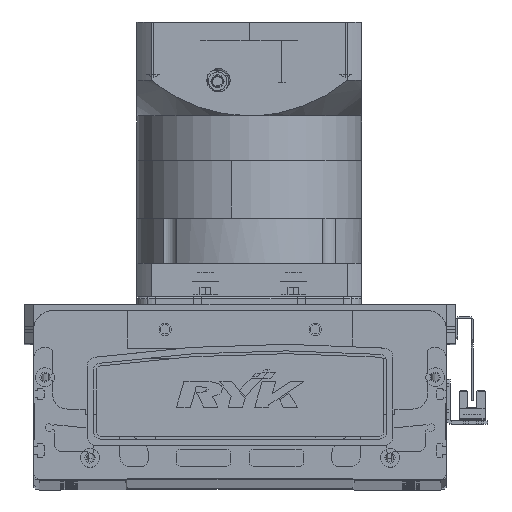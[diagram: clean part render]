
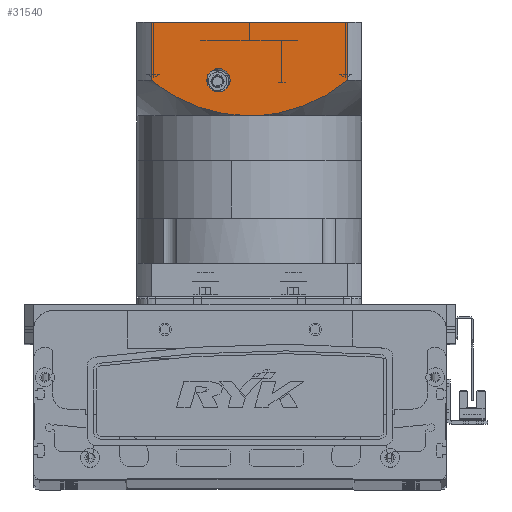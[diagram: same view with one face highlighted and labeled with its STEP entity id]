
A CAD part, top view. The second image highlights one B-rep face of the part: STEP entity #31540.
In plain terms, the highlighted planar face has unit normal (0, 0, 1) as drawn and (0, -1, 0) by its records, which use the part's own axes.
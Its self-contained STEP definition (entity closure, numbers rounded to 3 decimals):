
#406 = EDGE_CURVE ( 'NONE', #32347, #71143, #7546, .T. ) ;
#565 = AXIS2_PLACEMENT_3D ( 'NONE', #64528, #24680, #1596 ) ;
#1303 = CARTESIAN_POINT ( 'NONE',  ( 52.156, -60., -119.5 ) ) ;
#1596 = DIRECTION ( 'NONE',  ( 1., 0., 0. ) ) ;
#2330 = CARTESIAN_POINT ( 'NONE',  ( 16.5, -60., -119.5 ) ) ;
#3910 = FACE_OUTER_BOUND ( 'NONE', #42568, .T. ) ;
#4537 = CARTESIAN_POINT ( 'NONE',  ( -39.546, -60., -110.776 ) ) ;
#5009 = CARTESIAN_POINT ( 'NONE',  ( -48.52, -60., -116.438 ) ) ;
#6157 = CARTESIAN_POINT ( 'NONE',  ( 16.426, -60., -102.169 ) ) ;
#6652 = CARTESIAN_POINT ( 'NONE',  ( 32.196, -60., -107.007 ) ) ;
#7546 = LINE ( 'NONE', #23650, #21731 ) ;
#7664 = CARTESIAN_POINT ( 'NONE',  ( 0., -60., -100.5 ) ) ;
#8018 = DIRECTION ( 'NONE',  ( 0., 0., -1. ) ) ;
#9166 = CARTESIAN_POINT ( 'NONE',  ( 52.156, -60., -150.5 ) ) ;
#9245 = EDGE_CURVE ( 'NONE', #32347, #11180, #66068, .T. ) ;
#9313 = ORIENTED_EDGE ( 'NONE', *, *, #9245, .T. ) ;
#9543 = ORIENTED_EDGE ( 'NONE', *, *, #406, .F. ) ;
#10449 = CARTESIAN_POINT ( 'NONE',  ( 0., -60., -100.5 ) ) ;
#10595 = DIRECTION ( 'NONE',  ( 0., 0., -1. ) ) ;
#11180 = VERTEX_POINT ( 'NONE', #72180 ) ;
#11588 = EDGE_CURVE ( 'NONE', #11180, #70984, #33964, .T. ) ;
#11593 = CARTESIAN_POINT ( 'NONE',  ( 15.267, -60., -101.938 ) ) ;
#12230 = ORIENTED_EDGE ( 'NONE', *, *, #30545, .F. ) ;
#12321 = CARTESIAN_POINT ( 'NONE',  ( 42.555, -60., -112.543 ) ) ;
#12853 = ORIENTED_EDGE ( 'NONE', *, *, #11588, .T. ) ;
#15938 = CARTESIAN_POINT ( 'NONE',  ( -36.409, -60., -109.113 ) ) ;
#17544 = CARTESIAN_POINT ( 'NONE',  ( 52.156, -60., -119.5 ) ) ;
#17890 = DIRECTION ( 'NONE',  ( 0., 0., 1. ) ) ;
#18029 = CARTESIAN_POINT ( 'NONE',  ( 50.338, -60., -117.969 ) ) ;
#19072 = EDGE_LOOP ( 'NONE', ( #52350, #50507 ) ) ;
#20447 = CARTESIAN_POINT ( 'NONE',  ( -60., -60., -150.5 ) ) ;
#21068 = DIRECTION ( 'NONE',  ( 0., 0., 1. ) ) ;
#21083 = AXIS2_PLACEMENT_3D ( 'NONE', #2330, #41928, #8018 ) ;
#21651 = CARTESIAN_POINT ( 'NONE',  ( -9.477, -60., -101.046 ) ) ;
#21731 = VECTOR ( 'NONE', #17890, 1000. ) ;
#22219 = CARTESIAN_POINT ( 'NONE',  ( -52.156, -60., -150.5 ) ) ;
#23287 = CARTESIAN_POINT ( 'NONE',  ( 25.577, -60., -104.596 ) ) ;
#23311 = ORIENTED_EDGE ( 'NONE', *, *, #52823, .F. ) ;
#23549 = CARTESIAN_POINT ( 'NONE',  ( 18.739, -60., -102.681 ) ) ;
#23650 = CARTESIAN_POINT ( 'NONE',  ( -52.156, -60., -97.5 ) ) ;
#23978 = EDGE_CURVE ( 'NONE', #66889, #70495, #70445, .T. ) ;
#24680 = DIRECTION ( 'NONE',  ( 0., -1., 0. ) ) ;
#26199 = DIRECTION ( 'NONE',  ( 1., 0., 0. ) ) ;
#26707 = CIRCLE ( 'NONE', #21083, 6.25 ) ;
#28074 = CARTESIAN_POINT ( 'NONE',  ( -35.342, -60., -108.587 ) ) ;
#28741 = CARTESIAN_POINT ( 'NONE',  ( 41.545, -60., -111.931 ) ) ;
#30545 = EDGE_CURVE ( 'NONE', #71143, #47971, #64034, .T. ) ;
#31540 = ADVANCED_FACE ( 'NONE', ( #3910, #46419 ), #58838, .T. ) ;
#32347 = VERTEX_POINT ( 'NONE', #22219 ) ;
#33051 = CARTESIAN_POINT ( 'NONE',  ( -8.294, -60., -100.916 ) ) ;
#33753 = B_SPLINE_CURVE_WITH_KNOTS ( 'NONE', 3,
 ( #51954, #68339, #68837, #11593, #6157, #23549, #40551, #63386, #23287, #6652, #62645, #28741, #12321, #45764, #69077, #46238, #18029, #17544 ),
 .UNSPECIFIED., .F., .F.,
 ( 4, 2, 2, 2, 2, 2, 2, 2, 4 ),
 ( 0., 0.014, 0.018, 0.021, 0.028, 0.042, 0.046, 0.05, 0.057 ),
 .UNSPECIFIED. ) ;
#33769 = CARTESIAN_POINT ( 'NONE',  ( -23.319, -60., -103.777 ) ) ;
#33964 = LINE ( 'NONE', #9166, #43634 ) ;
#38713 = CARTESIAN_POINT ( 'NONE',  ( -2.376, -60., -100.5 ) ) ;
#40079 = AXIS2_PLACEMENT_3D ( 'NONE', #50734, #73553, #10595 ) ;
#40551 = CARTESIAN_POINT ( 'NONE',  ( 19.894, -60., -102.964 ) ) ;
#41928 = DIRECTION ( 'NONE',  ( 0., 1., 0. ) ) ;
#42053 = VECTOR ( 'NONE', #26199, 1000. ) ;
#42568 = EDGE_LOOP ( 'NONE', ( #9543, #9313, #12853, #23311, #12230 ) ) ;
#43634 = VECTOR ( 'NONE', #21068, 1000. ) ;
#44124 = CARTESIAN_POINT ( 'NONE',  ( -12.993, -60., -101.537 ) ) ;
#44372 = CARTESIAN_POINT ( 'NONE',  ( -38.51, -60., -110.207 ) ) ;
#45764 = CARTESIAN_POINT ( 'NONE',  ( 44.553, -60., -113.817 ) ) ;
#46238 = CARTESIAN_POINT ( 'NONE',  ( 48.457, -60., -116.522 ) ) ;
#46419 = FACE_BOUND ( 'NONE', #19072, .T. ) ;
#47971 = VERTEX_POINT ( 'NONE', #7664 ) ;
#50507 = ORIENTED_EDGE ( 'NONE', *, *, #23978, .T. ) ;
#50734 = CARTESIAN_POINT ( 'NONE',  ( 16.5, -60., -119.5 ) ) ;
#50955 = CARTESIAN_POINT ( 'NONE',  ( 16.5, -60., -125.75 ) ) ;
#51954 = CARTESIAN_POINT ( 'NONE',  ( 0., -60., -100.5 ) ) ;
#52350 = ORIENTED_EDGE ( 'NONE', *, *, #66643, .T. ) ;
#52823 = EDGE_CURVE ( 'NONE', #47971, #70984, #33753, .T. ) ;
#55556 = CARTESIAN_POINT ( 'NONE',  ( -11.825, -60., -101.356 ) ) ;
#55796 = CARTESIAN_POINT ( 'NONE',  ( -29.939, -60., -106.183 ) ) ;
#58838 = PLANE ( 'NONE',  #565 ) ;
#61995 = CARTESIAN_POINT ( 'NONE',  ( -44.656, -60., -113.73 ) ) ;
#62238 = CARTESIAN_POINT ( 'NONE',  ( 16.5, -60., -113.25 ) ) ;
#62645 = CARTESIAN_POINT ( 'NONE',  ( 36.444, -60., -108.986 ) ) ;
#63386 = CARTESIAN_POINT ( 'NONE',  ( 23.329, -60., -103.886 ) ) ;
#63986 = CARTESIAN_POINT ( 'NONE',  ( -52.156, -60., -119.5 ) ) ;
#64034 = B_SPLINE_CURVE_WITH_KNOTS ( 'NONE', 3,
 ( #72443, #5009, #61995, #4537, #44372, #15938, #28074, #67695, #55796, #33769, #73425, #44124, #55556, #21651, #33051, #72688, #38713, #10449 ),
 .UNSPECIFIED., .F., .F.,
 ( 4, 2, 2, 2, 2, 2, 2, 2, 4 ),
 ( 0., 0.014, 0.018, 0.021, 0.028, 0.042, 0.046, 0.05, 0.057 ),
 .UNSPECIFIED. ) ;
#64528 = CARTESIAN_POINT ( 'NONE',  ( -60., -60., -150.5 ) ) ;
#66068 = LINE ( 'NONE', #20447, #42053 ) ;
#66643 = EDGE_CURVE ( 'NONE', #70495, #66889, #26707, .T. ) ;
#66889 = VERTEX_POINT ( 'NONE', #62238 ) ;
#67695 = CARTESIAN_POINT ( 'NONE',  ( -32.118, -60., -107.084 ) ) ;
#68339 = CARTESIAN_POINT ( 'NONE',  ( 4.753, -60., -100.5 ) ) ;
#68837 = CARTESIAN_POINT ( 'NONE',  ( 9.454, -60., -100.914 ) ) ;
#69077 = CARTESIAN_POINT ( 'NONE',  ( 45.542, -60., -114.478 ) ) ;
#70445 = CIRCLE ( 'NONE', #40079, 6.25 ) ;
#70495 = VERTEX_POINT ( 'NONE', #50955 ) ;
#70984 = VERTEX_POINT ( 'NONE', #1303 ) ;
#71143 = VERTEX_POINT ( 'NONE', #63986 ) ;
#72180 = CARTESIAN_POINT ( 'NONE',  ( 52.156, -60., -150.5 ) ) ;
#72443 = CARTESIAN_POINT ( 'NONE',  ( -52.156, -60., -119.5 ) ) ;
#72688 = CARTESIAN_POINT ( 'NONE',  ( -4.747, -60., -100.604 ) ) ;
#73425 = CARTESIAN_POINT ( 'NONE',  ( -18.792, -60., -102.562 ) ) ;
#73553 = DIRECTION ( 'NONE',  ( 0., 1., 0. ) ) ;
